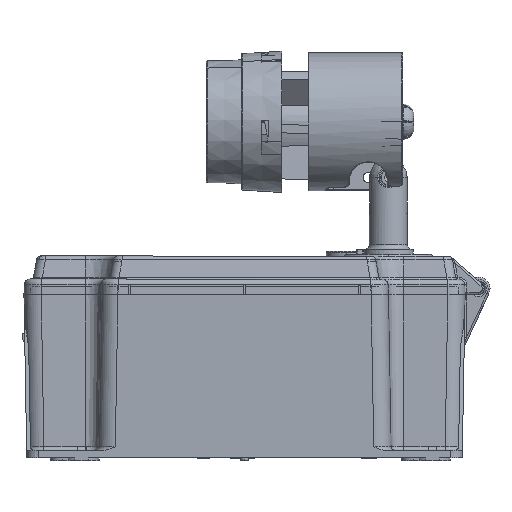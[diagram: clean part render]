
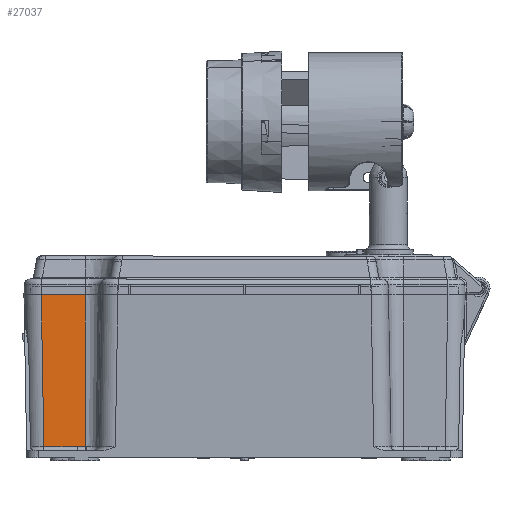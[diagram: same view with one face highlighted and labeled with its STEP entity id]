
A CAD part, left-side view. The second image highlights one B-rep face of the part: STEP entity #27037.
In plain terms, the highlighted planar face has unit normal (-1, 0, 0.018).
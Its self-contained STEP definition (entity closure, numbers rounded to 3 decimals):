
#6231 = CARTESIAN_POINT ( 'NONE',  ( -182.383, 85.493, 5.769 ) ) ;
#7577 = LINE ( 'NONE', #101084, #55206 ) ;
#13291 = LINE ( 'NONE', #45721, #75598 ) ;
#17325 = VERTEX_POINT ( 'NONE', #33345 ) ;
#17532 = CARTESIAN_POINT ( 'NONE',  ( -182.382, 86.561, 5.804 ) ) ;
#27037 = ADVANCED_FACE ( 'NONE', ( #97349 ), #124685, .T. ) ;
#33345 = CARTESIAN_POINT ( 'NONE',  ( -182.382, 87.273, 5.818 ) ) ;
#34711 = LINE ( 'NONE', #76814, #142880 ) ;
#36147 = LINE ( 'NONE', #98035, #52549 ) ;
#40535 = CARTESIAN_POINT ( 'NONE',  ( -182.382, 86.917, 5.818 ) ) ;
#41577 = CARTESIAN_POINT ( 'NONE',  ( -182.383, 83.712, 5.794 ) ) ;
#42611 = VERTEX_POINT ( 'NONE', #119651 ) ;
#45721 = CARTESIAN_POINT ( 'NONE',  ( -181.707, 105.289, 44.481 ) ) ;
#46612 = CARTESIAN_POINT ( 'NONE',  ( -182.382, 104.614, 5.818 ) ) ;
#47584 = EDGE_CURVE ( 'NONE', #92097, #135333, #34711, .T. ) ;
#52549 = VECTOR ( 'NONE', #62617, 1000. ) ;
#55206 = VECTOR ( 'NONE', #77247, 1000. ) ;
#56537 = DIRECTION ( 'NONE',  ( 0.017, 0., 1. ) ) ;
#62617 = DIRECTION ( 'NONE',  ( 0., -1., 0. ) ) ;
#65687 = CARTESIAN_POINT ( 'NONE',  ( -182.382, 83., 5.815 ) ) ;
#68809 = CARTESIAN_POINT ( 'NONE',  ( -181., 0.964, 85. ) ) ;
#74264 = CARTESIAN_POINT ( 'NONE',  ( -182.382, 83., 5.815 ) ) ;
#75598 = VECTOR ( 'NONE', #92333, 1000. ) ;
#76295 = B_SPLINE_CURVE_WITH_KNOTS ( 'NONE', 3,
 ( #146622, #40535, #17532, #123519, #6231, #88167, #111875, #41577, #100581, #65687 ),
 .UNSPECIFIED., .F., .F.,
 ( 4, 2, 2, 2, 4 ),
 ( 0., 0.001, 0.002, 0.003, 0.004 ),
 .UNSPECIFIED. ) ;
#76814 = CARTESIAN_POINT ( 'NONE',  ( -181., 83., 85. ) ) ;
#77247 = DIRECTION ( 'NONE',  ( 0., -1., 0. ) ) ;
#79491 = ORIENTED_EDGE ( 'NONE', *, *, #99682, .F. ) ;
#88143 = ORIENTED_EDGE ( 'NONE', *, *, #134618, .T. ) ;
#88167 = CARTESIAN_POINT ( 'NONE',  ( -182.383, 84.781, 5.765 ) ) ;
#89533 = DIRECTION ( 'NONE',  ( 0.017, 0., 1. ) ) ;
#91441 = ORIENTED_EDGE ( 'NONE', *, *, #47584, .T. ) ;
#92097 = VERTEX_POINT ( 'NONE', #74264 ) ;
#92333 = DIRECTION ( 'NONE',  ( -0.017, -0.017, -1. ) ) ;
#97349 = FACE_OUTER_BOUND ( 'NONE', #137083, .T. ) ;
#98035 = CARTESIAN_POINT ( 'NONE',  ( -181., -103., 85. ) ) ;
#99682 = EDGE_CURVE ( 'NONE', #42611, #135333, #36147, .T. ) ;
#100581 = CARTESIAN_POINT ( 'NONE',  ( -182.382, 83.356, 5.809 ) ) ;
#101084 = CARTESIAN_POINT ( 'NONE',  ( -182.382, 83., 5.818 ) ) ;
#103202 = DIRECTION ( 'NONE',  ( -1., 0., 0.017 ) ) ;
#105287 = ORIENTED_EDGE ( 'NONE', *, *, #132787, .T. ) ;
#107672 = AXIS2_PLACEMENT_3D ( 'NONE', #68809, #103202, #56537 ) ;
#111503 = EDGE_CURVE ( 'NONE', #42611, #116355, #13291, .T. ) ;
#111875 = CARTESIAN_POINT ( 'NONE',  ( -182.383, 84.425, 5.772 ) ) ;
#116355 = VERTEX_POINT ( 'NONE', #46612 ) ;
#119651 = CARTESIAN_POINT ( 'NONE',  ( -181., 105.996, 85. ) ) ;
#123519 = CARTESIAN_POINT ( 'NONE',  ( -182.383, 85.849, 5.78 ) ) ;
#124685 = PLANE ( 'NONE',  #107672 ) ;
#130456 = CARTESIAN_POINT ( 'NONE',  ( -181., 83., 85. ) ) ;
#132787 = EDGE_CURVE ( 'NONE', #116355, #17325, #7577, .T. ) ;
#134204 = ORIENTED_EDGE ( 'NONE', *, *, #111503, .T. ) ;
#134618 = EDGE_CURVE ( 'NONE', #17325, #92097, #76295, .T. ) ;
#135333 = VERTEX_POINT ( 'NONE', #130456 ) ;
#137083 = EDGE_LOOP ( 'NONE', ( #134204, #105287, #88143, #91441, #79491 ) ) ;
#142880 = VECTOR ( 'NONE', #89533, 1000. ) ;
#146622 = CARTESIAN_POINT ( 'NONE',  ( -182.382, 87.273, 5.818 ) ) ;
